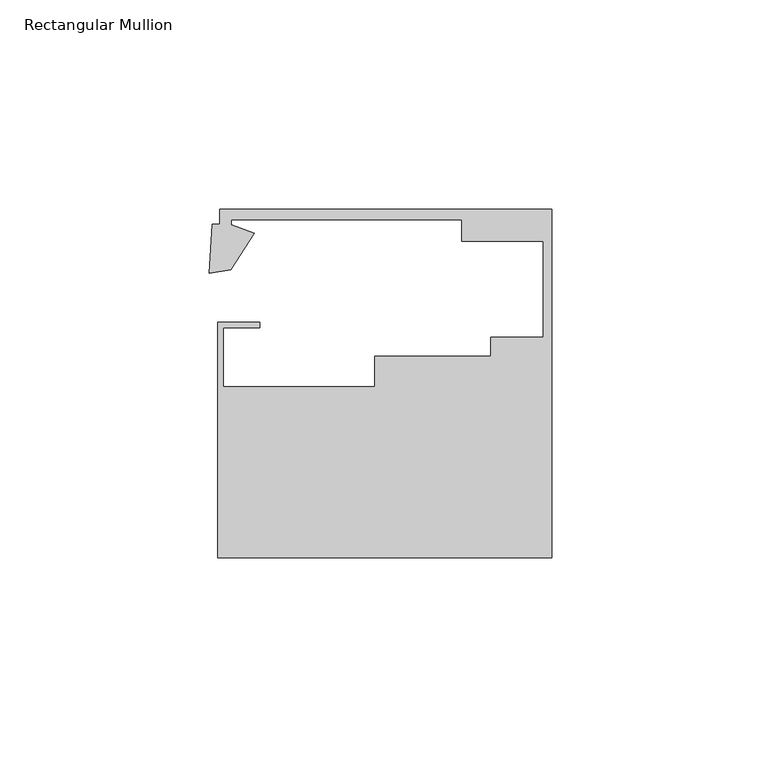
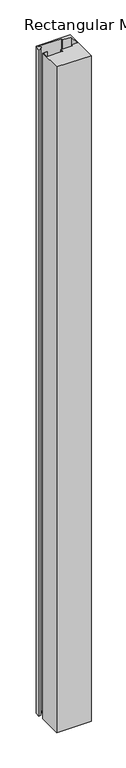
"""IFC4 building model written with IfcOpenShell, lengths in millimetres: member geometry, Rectangular Mullion : Danpal_NM_End-Mullion_B1."""

from ifc_helpers import new_model, si_unit, frame, origin, place, context, project, spatial, polyline, outline, extrude, source, transform, mapped, element, save


def rectangular_mullion_7fd34434(model_context):
    return source(origin(), model_context, "Body", "SweptSolid", [
        extrude(outline(polyline([(0.0, -68.4940825), (-79.7784606, -68.4940825), (-79.7784606, -12.280939), (-69.8282946, -12.280939), (-69.8282946, -13.5916994), (-78.4582695, -13.5916994), (-78.4582695, -27.6399085), (-42.2578709, -27.6399085), (-42.2684147, -20.3894746), (-14.6000003, -20.3492381), (-14.6000003, -15.7940824), (-2.0000001, -15.7940824), (-2.0000001, 7.1181946), (-21.5478166, 7.1181946), (-21.5478166, 12.3181946), (-76.6478166, 12.3181946), (-76.6478166, 11.1168176), (-71.0577359, 9.0180613), (-76.7540801, 0.319325), (-81.8779002, -0.484903), (-81.1597999, 11.1413992), (-79.3474874, 11.1413992), (-79.3474874, 14.8003189), (0.0, 14.8051514), (0.0, -68.4940825)])), frame((0.0, 0.0, -1629.047587), z_axis=(0.0, 0.0, 1.0), x_axis=(1.0, 0.0, 0.0)), (0.0, 0.0, 1.0), 1629.047587),
    ])


if __name__ == "__main__":
    model = new_model("IFC4")
    model_context = context("Model", 3, world=origin())
    ifc_project = project(units=[si_unit("LENGTHUNIT", "METRE", prefix="MILLI")], contexts=[model_context])
    site = spatial("IfcSite", under=ifc_project)
    building = spatial("IfcBuilding", under=site)
    placement = place(None, origin())
    rectangular_mullion_shape = rectangular_mullion_7fd34434(model_context)
    element("IfcMember", 1, ObjectType="Rectangular Mullion : Danpal_NM_End-Mullion_B1", at=placement, inside=building, context=model_context, shape_type="MappedRepresentation", body=[
        mapped(rectangular_mullion_shape, transform((0.0, 0.0, 0.0), x_axis=(1.0, 0.0, 0.0), y_axis=(0.0, 1.0, 0.0), z_axis=(0.0, 0.0, 1.0))),
    ])
    save(model, "model.ifc")
